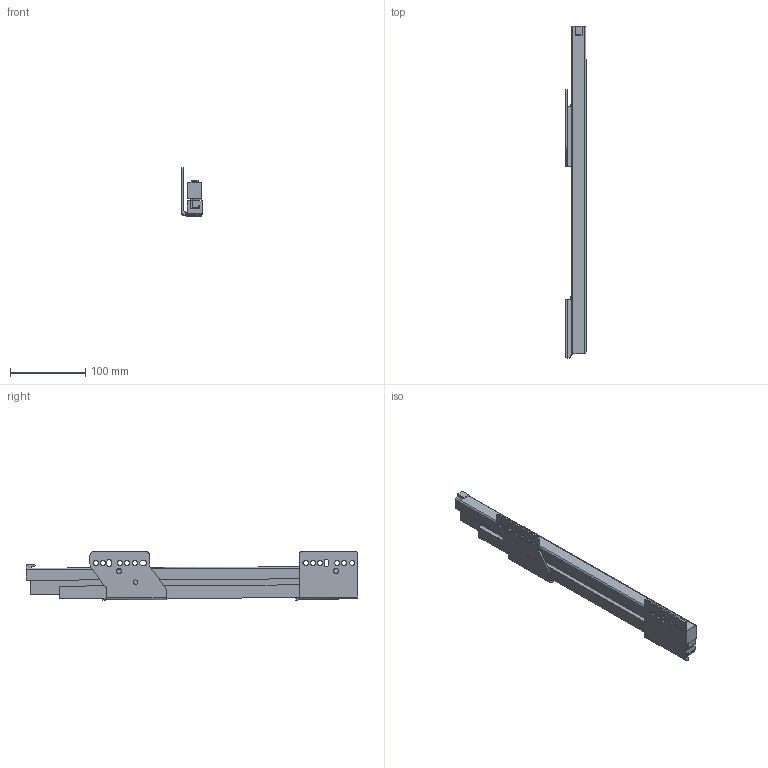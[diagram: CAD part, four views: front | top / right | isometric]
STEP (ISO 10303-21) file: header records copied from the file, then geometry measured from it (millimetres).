
FILE_DESCRIPTION (( 'STEP AP214' ), '1' );
FILE_NAME ('_IMOS_NOVA-Pro_KS_P907_LI_NL450_EB29.step', '2010-07-06T08:28:45', ( 'grass' ), ( '' ), 'SwSTEP 2.0', 'SolidWorks 2009', '' );
FILE_SCHEMA (( 'AUTOMOTIVE_DESIGN' ));
Length unit declared in the file: millimetre
Products named in the file (1): _IMOS_NOVA-Pro_KS_P907_LI_NL450_EB29
Bounding box: 26.75 x 440.35 x 64.46 mm (x, y, z)
Volume: 343351.3 mm3; surface area: 142254.5 mm2
Topology: 6 solids, 6 shells, 144 faces, 392 edges, 260 vertices
Faces by surface type: plane 89, cylinder 55
Entity records: 4691 total; most frequent: CARTESIAN_POINT 848, ORIENTED_EDGE 784, DIRECTION 765, EDGE_CURVE 392, LINE 275, VECTOR 275, VERTEX_POINT 260, AXIS2_PLACEMENT_3D 245
